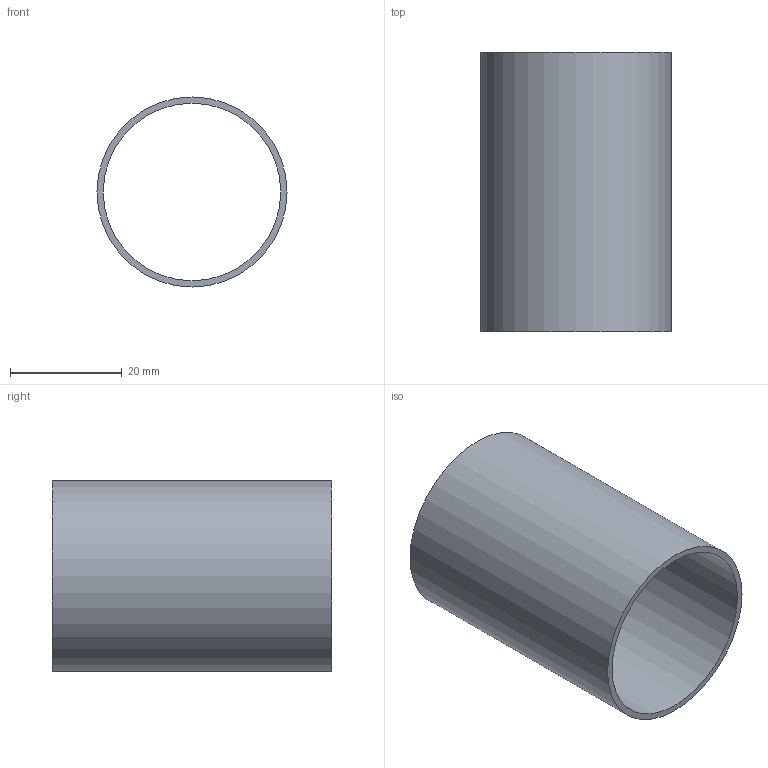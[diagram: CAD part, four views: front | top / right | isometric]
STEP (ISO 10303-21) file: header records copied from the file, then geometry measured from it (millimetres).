
FILE_DESCRIPTION(/* description */ ('STEP AP242 Edition 2','CAx-IF Rec.Pracs.---Representation and Presentation of Product Manufacturing Information (PMI)---4.0---2014-10-13','CAx-IF Rec.Pracs.---3D Tessellated Geometry---0.4---2014-09-14','2;1','CAx-IF Rec.Pracs.---User Defined Attributes---1.5---2016-08-15'),/* implementation_level */ '2;1');
FILE_NAME(/* name */ 'Assembly V2 - Band Heater (1)',/* time_stamp */ '2026-02-05T22:44:36Z',/* author */ (''),/* organization */ (''),/* preprocessor_version */ 'ST-DEVELOPER v20',/* originating_system */ 'ONSHAPE BY PTC INC, 1.210',/* authorisation */ ' ');
FILE_SCHEMA (('AP242_MANAGED_MODEL_BASED_3D_ENGINEERING_MIM_LF { 1 0 10303 442 3 1 4 }'));
Length unit declared in the file: metre
Products named in the file (1): Band Heater
Bounding box: 34 x 50 x 34 mm (x, y, z)
Volume: 5809.5 mm3; surface area: 10560.4 mm2
Topology: 1 solids, 1 shells, 4 faces, 6 edges, 4 vertices
Faces by surface type: cylinder 2, plane 2
Full cylindrical faces by diameter (mm): 31.75 x1, 34 x1
Entity records: 110 total; most frequent: DIRECTION 18, CARTESIAN_POINT 13, AXIS2_PLACEMENT_3D 9, ORIENTED_EDGE 8, EDGE_LOOP 8, FACE_BOUND 8, EDGE_CURVE 4, VERTEX_POINT 4
